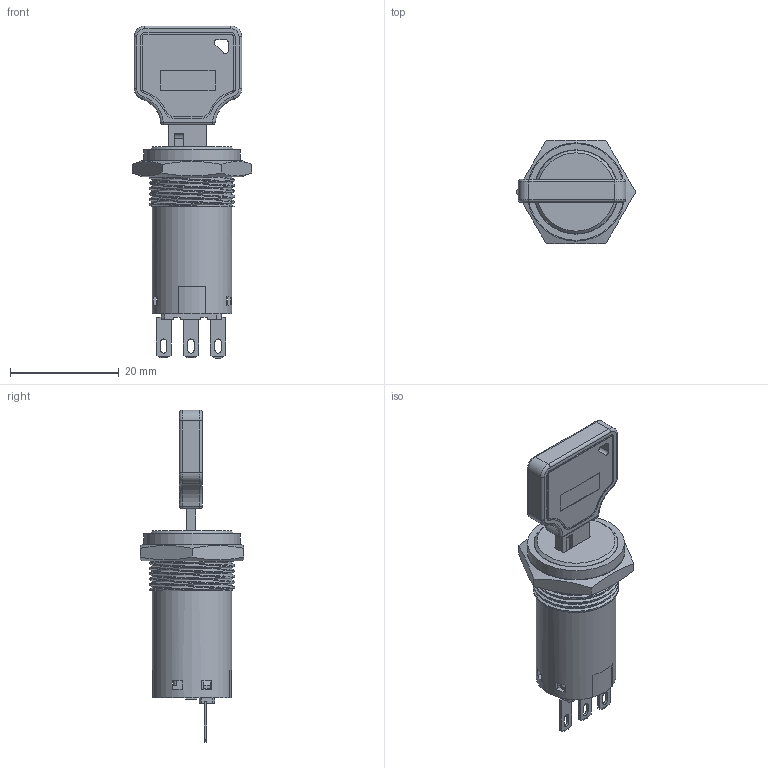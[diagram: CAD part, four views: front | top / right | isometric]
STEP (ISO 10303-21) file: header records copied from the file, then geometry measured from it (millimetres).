
FILE_DESCRIPTION(/* description */ (''),/* implementation_level */ '2;1');
FILE_NAME(/* name */ 'FM16N-SFP-11Y.stp',/* time_stamp */ '2020-08-12T10:02:36+08:00',/* author */ (''),/* organization */ (''),/* preprocessor_version */ 'ST-DEVELOPER v16.7',/* originating_system */ 'SIEMENS PLM Software NX 12.0',/* authorisation */ '');
FILE_SCHEMA (('AUTOMOTIVE_DESIGN { 1 0 10303 214 3 1 1 1 }'));
Length unit declared in the file: millimetre
Products named in the file (1): Admi2798C965xfu8
Bounding box: 21.94 x 19 x 61.06 mm (x, y, z)
Volume: 4502.8 mm3; surface area: 8770.3 mm2
Topology: 1 solids, 1 shells, 961 faces, 2760 edges, 1807 vertices
Faces by surface type: plane 727, cylinder 168, torus 26, cone 17, extrusion 12, bspline 6, sphere 5
Full cylindrical faces by diameter (mm): 1 x2, 1.8 x2, 2.135 x1, 4.2 x1, 6.7 x1, 6.9 x1, 8.2 x1, 12.1 x1, 13 x1, 14 x1, 14.1 x1, 14.7 x1, 15.4 x1, 15.5 x1, 17.8 x1
Entity records: 39856 total; most frequent: CARTESIAN_POINT 7902, ORIENTED_EDGE 5438, DIRECTION 4930, EDGE_CURVE 2719, VECTOR 2150, LINE 2138, VERTEX_POINT 1799, AXIS2_PLACEMENT_3D 1390
